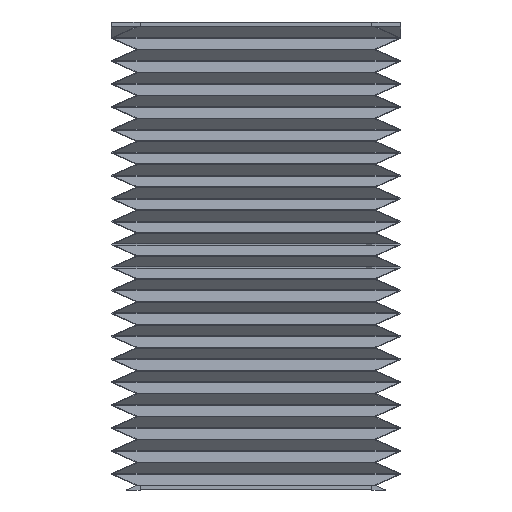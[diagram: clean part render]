
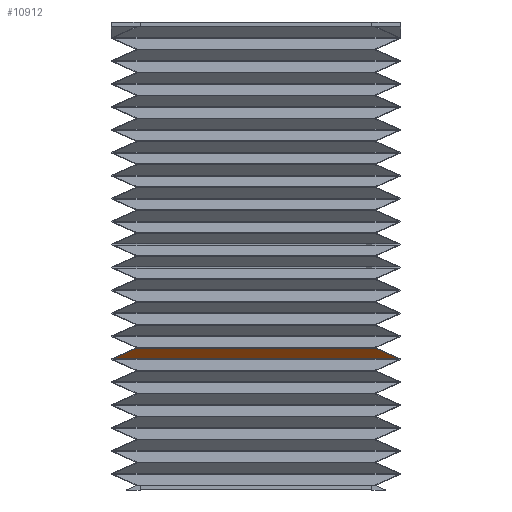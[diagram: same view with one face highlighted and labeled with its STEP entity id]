
A CAD part, front view. The second image highlights one B-rep face of the part: STEP entity #10912.
In plain terms, the highlighted planar face has unit normal (0, -0.404, -0.915).
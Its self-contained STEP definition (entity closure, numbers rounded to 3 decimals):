
#1454 = CARTESIAN_POINT ( 'NONE',  ( -124.511, 85.511, 100.5 ) ) ;
#4362 = VERTEX_POINT ( 'NONE', #5839 ) ;
#5053 = ORIENTED_EDGE ( 'NONE', *, *, #6028, .F. ) ;
#5057 = CARTESIAN_POINT ( 'NONE',  ( 124.511, 85.511, 100.5 ) ) ;
#5200 = PLANE ( 'NONE',  #21940 ) ;
#5410 = ORIENTED_EDGE ( 'NONE', *, *, #13891, .F. ) ;
#5791 = CARTESIAN_POINT ( 'NONE',  ( 113.819, 74.819, 105.225 ) ) ;
#5839 = CARTESIAN_POINT ( 'NONE',  ( 103.628, 64.606, 109.739 ) ) ;
#6028 = EDGE_CURVE ( 'NONE', #6095, #19720, #21200, .T. ) ;
#6082 = VECTOR ( 'NONE', #20877, 1000. ) ;
#6095 = VERTEX_POINT ( 'NONE', #1454 ) ;
#6683 = ORIENTED_EDGE ( 'NONE', *, *, #13851, .T. ) ;
#6845 = CARTESIAN_POINT ( 'NONE',  ( -103.628, 64.628, 109.73 ) ) ;
#7661 = CARTESIAN_POINT ( 'NONE',  ( 126., 85.511, 100.5 ) ) ;
#7857 = LINE ( 'NONE', #18816, #16749 ) ;
#7991 = FACE_OUTER_BOUND ( 'NONE', #16764, .T. ) ;
#9013 = CARTESIAN_POINT ( 'NONE',  ( 126., 85.511, 100.5 ) ) ;
#9155 = LINE ( 'NONE', #20388, #18608 ) ;
#10912 = ADVANCED_FACE ( 'NONE', ( #7991 ), #5200, .T. ) ;
#10921 = DIRECTION ( 'NONE',  ( 0., 0.915, -0.404 ) ) ;
#11165 = VECTOR ( 'NONE', #22019, 1000. ) ;
#12132 = VERTEX_POINT ( 'NONE', #23974 ) ;
#12194 = EDGE_CURVE ( 'NONE', #12132, #4362, #9155, .T. ) ;
#12254 = VECTOR ( 'NONE', #17366, 1000. ) ;
#12574 = ORIENTED_EDGE ( 'NONE', *, *, #16290, .T. ) ;
#12879 = LINE ( 'NONE', #23091, #12254 ) ;
#13388 = DIRECTION ( 'NONE',  ( -0.675, -0.675, 0.298 ) ) ;
#13851 = EDGE_CURVE ( 'NONE', #4362, #24294, #7857, .T. ) ;
#13891 = EDGE_CURVE ( 'NONE', #21670, #6095, #15526, .T. ) ;
#15185 = EDGE_CURVE ( 'NONE', #19720, #24294, #12879, .T. ) ;
#15526 = LINE ( 'NONE', #7661, #6082 ) ;
#15571 = CARTESIAN_POINT ( 'NONE',  ( -103.628, 64.606, 109.739 ) ) ;
#16290 = EDGE_CURVE ( 'NONE', #21670, #12132, #23462, .T. ) ;
#16749 = VECTOR ( 'NONE', #20711, 1000. ) ;
#16764 = EDGE_LOOP ( 'NONE', ( #6683, #19873, #5053, #5410, #12574, #19343 ) ) ;
#17366 = DIRECTION ( 'NONE',  ( 0., -0.915, 0.404 ) ) ;
#18208 = CARTESIAN_POINT ( 'NONE',  ( -113.819, 74.819, 105.225 ) ) ;
#18420 = VECTOR ( 'NONE', #13388, 1000. ) ;
#18608 = VECTOR ( 'NONE', #22304, 1000. ) ;
#18816 = CARTESIAN_POINT ( 'NONE',  ( 126., 64.606, 109.739 ) ) ;
#19343 = ORIENTED_EDGE ( 'NONE', *, *, #12194, .T. ) ;
#19720 = VERTEX_POINT ( 'NONE', #6845 ) ;
#19873 = ORIENTED_EDGE ( 'NONE', *, *, #15185, .F. ) ;
#20388 = CARTESIAN_POINT ( 'NONE',  ( 103.628, 83.245, 101.501 ) ) ;
#20711 = DIRECTION ( 'NONE',  ( -1., 0., 0. ) ) ;
#20877 = DIRECTION ( 'NONE',  ( -1., 0., 0. ) ) ;
#21200 = LINE ( 'NONE', #18208, #11165 ) ;
#21670 = VERTEX_POINT ( 'NONE', #5057 ) ;
#21940 = AXIS2_PLACEMENT_3D ( 'NONE', #9013, #22240, #10921 ) ;
#22019 = DIRECTION ( 'NONE',  ( 0.675, -0.675, 0.298 ) ) ;
#22240 = DIRECTION ( 'NONE',  ( 0., -0.404, -0.915 ) ) ;
#22304 = DIRECTION ( 'NONE',  ( 0., -0.915, 0.404 ) ) ;
#23091 = CARTESIAN_POINT ( 'NONE',  ( -103.628, 83.245, 101.501 ) ) ;
#23462 = LINE ( 'NONE', #5791, #18420 ) ;
#23974 = CARTESIAN_POINT ( 'NONE',  ( 103.628, 64.628, 109.73 ) ) ;
#24294 = VERTEX_POINT ( 'NONE', #15571 ) ;
